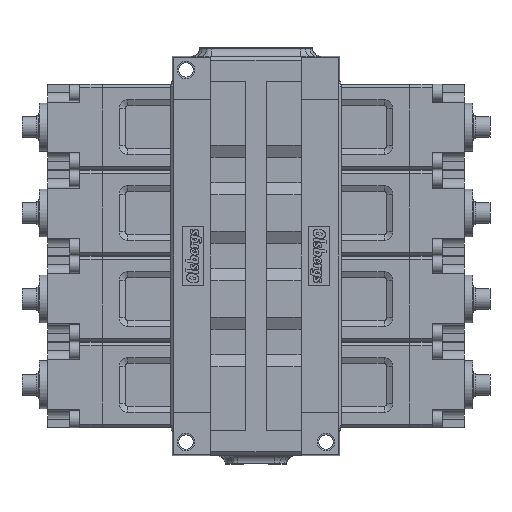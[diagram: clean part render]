
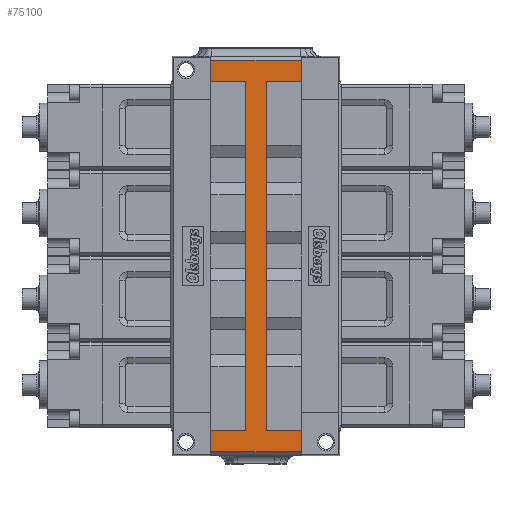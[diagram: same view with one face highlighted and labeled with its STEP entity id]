
A CAD part, front view. The second image highlights one B-rep face of the part: STEP entity #75100.
In plain terms, the highlighted planar face has unit normal (0, -1, 0).
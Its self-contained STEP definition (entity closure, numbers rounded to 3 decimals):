
#12481 = CARTESIAN_POINT ( 'NONE',  ( 26.529, -27., 114.564 ) ) ;
#12496 = CARTESIAN_POINT ( 'NONE',  ( 6., -27., 102. ) ) ;
#12500 = CARTESIAN_POINT ( 'NONE',  ( 26.529, -27., -102. ) ) ;
#12506 = CARTESIAN_POINT ( 'NONE',  ( 6., -27., -102. ) ) ;
#12508 = CARTESIAN_POINT ( 'NONE',  ( -26.529, -27., -102. ) ) ;
#12511 = CARTESIAN_POINT ( 'NONE',  ( 26.529, -27., 102. ) ) ;
#12512 = CARTESIAN_POINT ( 'NONE',  ( -26.529, -27., -114.564 ) ) ;
#12513 = CARTESIAN_POINT ( 'NONE',  ( -6., -27., 102. ) ) ;
#12515 = CARTESIAN_POINT ( 'NONE',  ( -6., -27., -102. ) ) ;
#12516 = CARTESIAN_POINT ( 'NONE',  ( -26.529, -27., 114.564 ) ) ;
#12517 = CARTESIAN_POINT ( 'NONE',  ( -26.529, -27., 102. ) ) ;
#12525 = CARTESIAN_POINT ( 'NONE',  ( 26.529, -27., -114.564 ) ) ;
#30292 = AXIS2_PLACEMENT_3D ( 'NONE', #33931, #33936, #33937 ) ;
#33929 = FACE_OUTER_BOUND ( 'NONE', #57238, .T. ) ;
#33931 = CARTESIAN_POINT ( 'NONE',  ( -52., -27., 117. ) ) ;
#33934 = PLANE ( 'NONE',  #30292 ) ;
#33936 = DIRECTION ( 'NONE',  ( 0., -1., 0. ) ) ;
#33937 = DIRECTION ( 'NONE',  ( 0., 0., -1. ) ) ;
#57238 = EDGE_LOOP ( 'NONE', ( #90528, #90526, #90525, #90523, #90522, #90521, #90520, #90519, #90518, #90516, #90514, #90513 ) ) ;
#58379 = VERTEX_POINT ( 'NONE', #12525 ) ;
#58389 = VERTEX_POINT ( 'NONE', #12517 ) ;
#58391 = VERTEX_POINT ( 'NONE', #12516 ) ;
#58393 = VERTEX_POINT ( 'NONE', #12515 ) ;
#58395 = VERTEX_POINT ( 'NONE', #12513 ) ;
#58397 = VERTEX_POINT ( 'NONE', #12512 ) ;
#58399 = VERTEX_POINT ( 'NONE', #12511 ) ;
#58401 = VERTEX_POINT ( 'NONE', #12508 ) ;
#58403 = VERTEX_POINT ( 'NONE', #12506 ) ;
#58406 = VERTEX_POINT ( 'NONE', #12500 ) ;
#58412 = VERTEX_POINT ( 'NONE', #12496 ) ;
#58434 = VERTEX_POINT ( 'NONE', #12481 ) ;
#61316 = VECTOR ( 'NONE', #63355, 1000. ) ;
#61319 = VECTOR ( 'NONE', #63352, 1000. ) ;
#61321 = VECTOR ( 'NONE', #63358, 1000. ) ;
#61323 = VECTOR ( 'NONE', #63360, 1000. ) ;
#61324 = VECTOR ( 'NONE', #63366, 1000. ) ;
#61326 = VECTOR ( 'NONE', #63364, 1000. ) ;
#61328 = VECTOR ( 'NONE', #63372, 1000. ) ;
#61331 = VECTOR ( 'NONE', #63370, 1000. ) ;
#61333 = VECTOR ( 'NONE', #63377, 1000. ) ;
#61335 = VECTOR ( 'NONE', #63375, 1000. ) ;
#61338 = VECTOR ( 'NONE', #63380, 1000. ) ;
#61340 = VECTOR ( 'NONE', #63383, 1000. ) ;
#63320 = LINE ( 'NONE', #63353, #61316 ) ;
#63344 = LINE ( 'NONE', #63356, #61321 ) ;
#63349 = LINE ( 'NONE', #63351, #61319 ) ;
#63350 = LINE ( 'NONE', #63359, #61323 ) ;
#63351 = CARTESIAN_POINT ( 'NONE',  ( 26.529, -27., -102. ) ) ;
#63352 = DIRECTION ( 'NONE',  ( 1., 0., 0. ) ) ;
#63353 = CARTESIAN_POINT ( 'NONE',  ( 6., -27., 102. ) ) ;
#63354 = LINE ( 'NONE', #63365, #61324 ) ;
#63355 = DIRECTION ( 'NONE',  ( 0., 0., -1. ) ) ;
#63356 = CARTESIAN_POINT ( 'NONE',  ( 26.529, -27., 102. ) ) ;
#63357 = LINE ( 'NONE', #63371, #61328 ) ;
#63358 = DIRECTION ( 'NONE',  ( -1., 0., 0. ) ) ;
#63359 = CARTESIAN_POINT ( 'NONE',  ( 26.529, -27., 116.529 ) ) ;
#63360 = DIRECTION ( 'NONE',  ( 0., 0., -1. ) ) ;
#63361 = LINE ( 'NONE', #63363, #61326 ) ;
#63362 = LINE ( 'NONE', #63376, #61333 ) ;
#63363 = CARTESIAN_POINT ( 'NONE',  ( -26.529, -27., 114.564 ) ) ;
#63364 = DIRECTION ( 'NONE',  ( -1., 0., 0. ) ) ;
#63365 = CARTESIAN_POINT ( 'NONE',  ( -26.529, -27., 116.529 ) ) ;
#63366 = DIRECTION ( 'NONE',  ( 0., 0., -1. ) ) ;
#63367 = LINE ( 'NONE', #63369, #61331 ) ;
#63369 = CARTESIAN_POINT ( 'NONE',  ( -26.529, -27., 102. ) ) ;
#63370 = DIRECTION ( 'NONE',  ( -1., 0., 0. ) ) ;
#63371 = CARTESIAN_POINT ( 'NONE',  ( -6., -27., 102. ) ) ;
#63372 = DIRECTION ( 'NONE',  ( 0., 0., 1. ) ) ;
#63373 = LINE ( 'NONE', #63374, #61335 ) ;
#63374 = CARTESIAN_POINT ( 'NONE',  ( -6., -27., -102. ) ) ;
#63375 = DIRECTION ( 'NONE',  ( 1., 0., 0. ) ) ;
#63376 = CARTESIAN_POINT ( 'NONE',  ( -26.529, -27., -116.529 ) ) ;
#63377 = DIRECTION ( 'NONE',  ( 0., 0., 1. ) ) ;
#63378 = LINE ( 'NONE', #63379, #61338 ) ;
#63379 = CARTESIAN_POINT ( 'NONE',  ( 26.529, -27., -114.564 ) ) ;
#63380 = DIRECTION ( 'NONE',  ( 1., 0., 0. ) ) ;
#63381 = LINE ( 'NONE', #63382, #61340 ) ;
#63382 = CARTESIAN_POINT ( 'NONE',  ( 26.529, -27., -116.529 ) ) ;
#63383 = DIRECTION ( 'NONE',  ( 0., 0., 1. ) ) ;
#75100 = ADVANCED_FACE ( 'NONE', ( #33929 ), #33934, .T. ) ;
#82087 = EDGE_CURVE ( 'NONE', #58403, #58406, #63349, .T. ) ;
#82088 = EDGE_CURVE ( 'NONE', #58412, #58403, #63320, .T. ) ;
#82089 = EDGE_CURVE ( 'NONE', #58399, #58412, #63344, .T. ) ;
#82091 = EDGE_CURVE ( 'NONE', #58434, #58399, #63350, .T. ) ;
#82093 = EDGE_CURVE ( 'NONE', #58434, #58391, #63361, .T. ) ;
#82094 = EDGE_CURVE ( 'NONE', #58391, #58389, #63354, .T. ) ;
#82095 = EDGE_CURVE ( 'NONE', #58395, #58389, #63367, .T. ) ;
#82096 = EDGE_CURVE ( 'NONE', #58393, #58395, #63357, .T. ) ;
#82097 = EDGE_CURVE ( 'NONE', #58401, #58393, #63373, .T. ) ;
#82098 = EDGE_CURVE ( 'NONE', #58397, #58401, #63362, .T. ) ;
#82099 = EDGE_CURVE ( 'NONE', #58397, #58379, #63378, .T. ) ;
#82100 = EDGE_CURVE ( 'NONE', #58379, #58406, #63381, .T. ) ;
#90513 = ORIENTED_EDGE ( 'NONE', *, *, #82100, .T. ) ;
#90514 = ORIENTED_EDGE ( 'NONE', *, *, #82099, .T. ) ;
#90516 = ORIENTED_EDGE ( 'NONE', *, *, #82098, .F. ) ;
#90518 = ORIENTED_EDGE ( 'NONE', *, *, #82097, .F. ) ;
#90519 = ORIENTED_EDGE ( 'NONE', *, *, #82096, .F. ) ;
#90520 = ORIENTED_EDGE ( 'NONE', *, *, #82095, .F. ) ;
#90521 = ORIENTED_EDGE ( 'NONE', *, *, #82094, .T. ) ;
#90522 = ORIENTED_EDGE ( 'NONE', *, *, #82093, .T. ) ;
#90523 = ORIENTED_EDGE ( 'NONE', *, *, #82091, .F. ) ;
#90525 = ORIENTED_EDGE ( 'NONE', *, *, #82089, .F. ) ;
#90526 = ORIENTED_EDGE ( 'NONE', *, *, #82088, .F. ) ;
#90528 = ORIENTED_EDGE ( 'NONE', *, *, #82087, .F. ) ;
